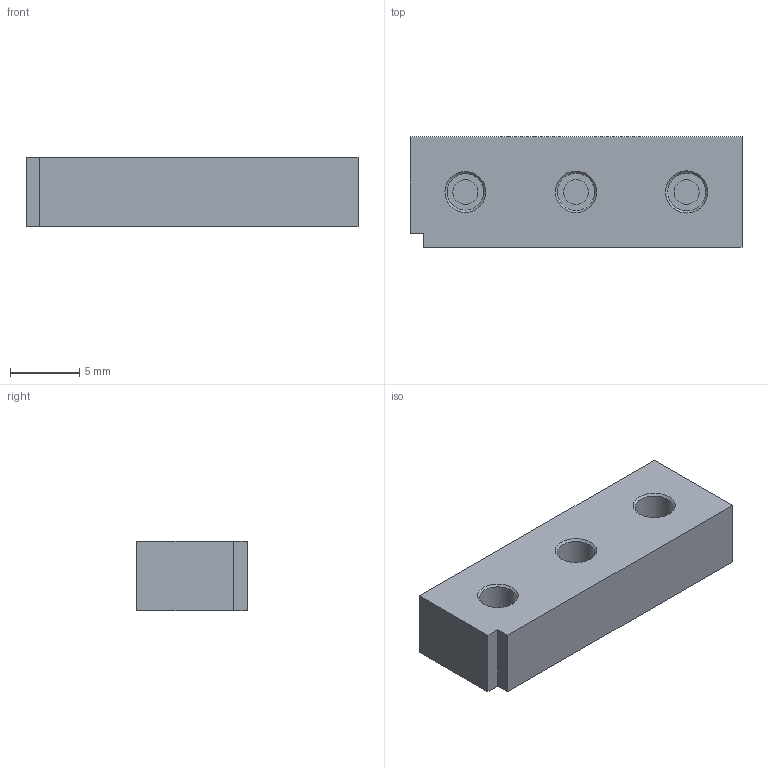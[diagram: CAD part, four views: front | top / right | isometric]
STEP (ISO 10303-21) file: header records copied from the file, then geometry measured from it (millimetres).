
FILE_DESCRIPTION(('FreeCAD Model'),'2;1');
FILE_NAME('Open CASCADE Shape Model','2026-09-23T11:35:07',('FreeCAD'),( 'FreeCAD'),'Open CASCADE STEP processor 7.8','FreeCAD','Unknown');
FILE_SCHEMA(('AUTOMOTIVE_DESIGN { 1 0 10303 214 1 1 1 1 }'));
Length unit declared in the file: millimetre
Products named in the file (1): Open CASCADE STEP translator 7.8 5
Bounding box: 24 x 8 x 5 mm (x, y, z)
Volume: 892.1 mm3; surface area: 798.2 mm2
Topology: 1 solids, 1 shells, 23 faces, 42 edges, 27 vertices
Faces by surface type: plane 14, cylinder 6, cone 3
Full cylindrical faces by diameter (mm): 1.8 x3, 2.65 x1, 2.7 x1, 2.75 x1
Entity records: 577 total; most frequent: DIRECTION 105, CARTESIAN_POINT 93, ORIENTED_EDGE 84, EDGE_CURVE 42, AXIS2_PLACEMENT_3D 39, FACE_BOUND 29, EDGE_LOOP 29, VERTEX_POINT 27
